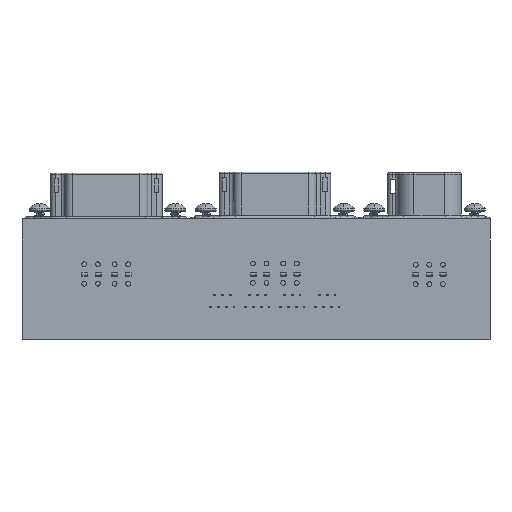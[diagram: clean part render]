
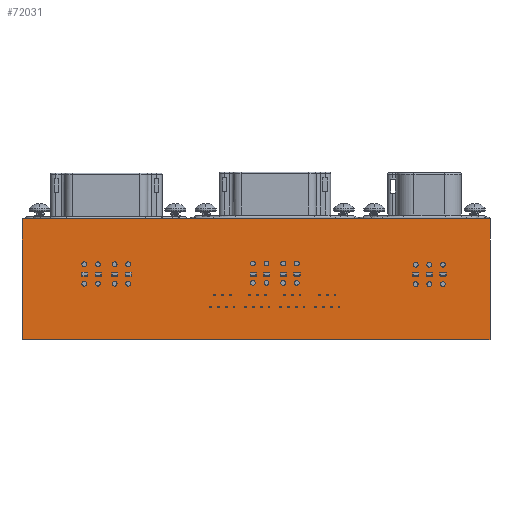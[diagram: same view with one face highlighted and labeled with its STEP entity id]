
A CAD part, front view. The second image highlights one B-rep face of the part: STEP entity #72031.
In plain terms, the highlighted planar face has unit normal (0, -1, 0).
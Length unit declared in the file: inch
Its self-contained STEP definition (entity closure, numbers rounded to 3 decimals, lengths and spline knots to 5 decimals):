
#3760 = VERTEX_POINT ( 'NONE', #61099 ) ;
#3913 = DIRECTION ( 'NONE',  ( 0., -1., 0. ) ) ;
#6415 = EDGE_CURVE ( 'NONE', #3760, #55734, #77480, .T. ) ;
#8952 = LINE ( 'NONE', #37131, #69185 ) ;
#10606 = DIRECTION ( 'NONE',  ( -1., 0., 0. ) ) ;
#20837 = CARTESIAN_POINT ( 'NONE',  ( 3.0125, -1.56, 1.08628 ) ) ;
#23404 = CARTESIAN_POINT ( 'NONE',  ( -3.0125, -1.56, -0.47034 ) ) ;
#27200 = DIRECTION ( 'NONE',  ( 0., 0., 1. ) ) ;
#29358 = EDGE_CURVE ( 'NONE', #67521, #43481, #67993, .T. ) ;
#29533 = FACE_OUTER_BOUND ( 'NONE', #38718, .T. ) ;
#33088 = ORIENTED_EDGE ( 'NONE', *, *, #70424, .T. ) ;
#37131 = CARTESIAN_POINT ( 'NONE',  ( 3.0125, -1.56, -0.47034 ) ) ;
#37384 = DIRECTION ( 'NONE',  ( 1., 0., 0. ) ) ;
#38718 = EDGE_LOOP ( 'NONE', ( #50960, #33088, #45478, #49446 ) ) ;
#40031 = CARTESIAN_POINT ( 'NONE',  ( 0., -1.56, 0. ) ) ;
#41546 = DIRECTION ( 'NONE',  ( 0., 0., -1. ) ) ;
#43481 = VERTEX_POINT ( 'NONE', #77534 ) ;
#45478 = ORIENTED_EDGE ( 'NONE', *, *, #6415, .T. ) ;
#46009 = DIRECTION ( 'NONE',  ( 0., 0., -1. ) ) ;
#48574 = CARTESIAN_POINT ( 'NONE',  ( -3.0125, -1.56, 1.08628 ) ) ;
#49446 = ORIENTED_EDGE ( 'NONE', *, *, #62135, .T. ) ;
#50960 = ORIENTED_EDGE ( 'NONE', *, *, #29358, .T. ) ;
#51026 = CARTESIAN_POINT ( 'NONE',  ( 3.0125, -1.56, -0.47034 ) ) ;
#51440 = VECTOR ( 'NONE', #10606, 39.37008 ) ;
#51749 = PLANE ( 'NONE',  #69308 ) ;
#53342 = LINE ( 'NONE', #58456, #51440 ) ;
#55734 = VERTEX_POINT ( 'NONE', #20837 ) ;
#58456 = CARTESIAN_POINT ( 'NONE',  ( 3.0125, -1.56, 1.08628 ) ) ;
#61099 = CARTESIAN_POINT ( 'NONE',  ( 3.0125, -1.56, -0.47034 ) ) ;
#61417 = VECTOR ( 'NONE', #27200, 39.37008 ) ;
#62135 = EDGE_CURVE ( 'NONE', #55734, #67521, #53342, .T. ) ;
#66108 = VECTOR ( 'NONE', #41546, 39.37008 ) ;
#67521 = VERTEX_POINT ( 'NONE', #48574 ) ;
#67993 = LINE ( 'NONE', #23404, #66108 ) ;
#69185 = VECTOR ( 'NONE', #37384, 39.37008 ) ;
#69308 = AXIS2_PLACEMENT_3D ( 'NONE', #40031, #3913, #46009 ) ;
#70424 = EDGE_CURVE ( 'NONE', #43481, #3760, #8952, .T. ) ;
#72031 = ADVANCED_FACE ( 'NONE', ( #29533 ), #51749, .T. ) ;
#77480 = LINE ( 'NONE', #51026, #61417 ) ;
#77534 = CARTESIAN_POINT ( 'NONE',  ( -3.0125, -1.56, -0.47034 ) ) ;
